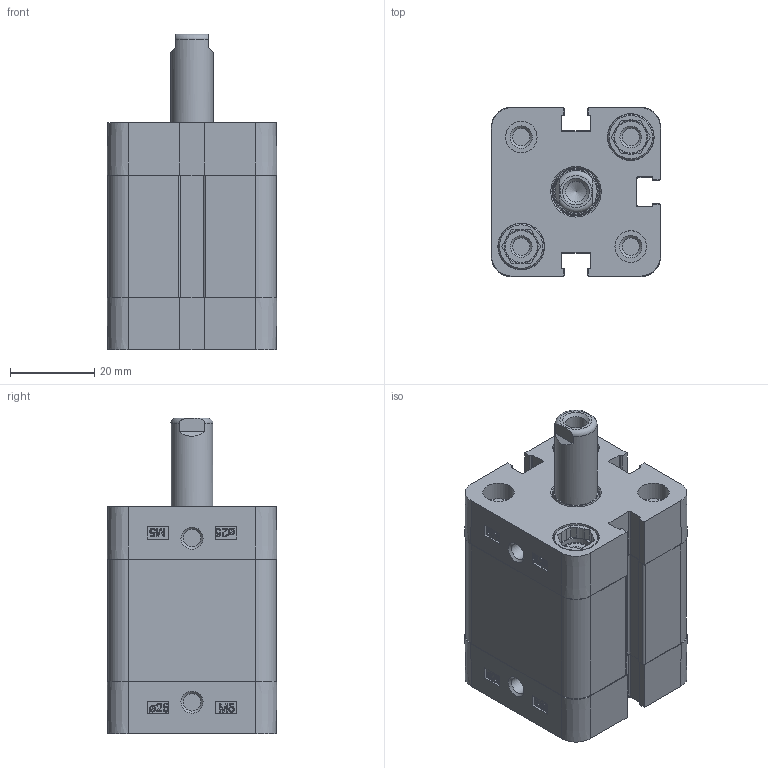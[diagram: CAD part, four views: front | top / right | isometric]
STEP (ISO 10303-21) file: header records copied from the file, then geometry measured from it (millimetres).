
FILE_DESCRIPTION(/* description */ ('Unknown'),/* implementation_level */ '2;1');
FILE_NAME(/* name */ 'ZENV 25_15',/* time_stamp */ '2025-01-24T09:54:58+01:00',/* author */ ('Unknown'),/* organization */ ('HAFNER Pneumatika Kft'),/* preprocessor_version */ 'ST-DEVELOPER v16.7',/* originating_system */ 'Solid Edge',/* authorisation */ 'Unknown');
FILE_SCHEMA (('AUTOMOTIVE_DESIGN {1 0 10303 214 3 1 1}'));
Length unit declared in the file: millimetre
Products named in the file (5): ZENV 25_15; Kit_1; Kit_2; Profilrohr; Kolbenstange
Assembly tree (4 placements, depth 2):
  ZENV 25_15
    Kit_1
    Kit_2
    Profilrohr
    Kolbenstange
Bounding box: 40.3 x 40.3 x 75 mm (x, y, z)
Volume: 70916.9 mm3; surface area: 28924.7 mm2
Topology: 4 solids, 10 shells, 583 faces, 1551 edges, 1026 vertices
Faces by surface type: plane 298, cylinder 141, bspline 84, cone 44, torus 16
Full cylindrical faces by diameter (mm): 4.134 x10, 4.917 x2, 7.5 x4, 8 x8, 9 x1, 10 x1, 10.48 x1, 10.9 x4, 11.1 x4, 11.4 x1, 12 x1, 13.84 x1, 14 x1, 25 x2
Entity records: 21648 total; most frequent: CARTESIAN_POINT 4139, ORIENTED_EDGE 2860, DIRECTION 2612, EDGE_CURVE 1430, VERTEX_POINT 995, LINE 880, VECTOR 880, AXIS2_PLACEMENT_3D 866
